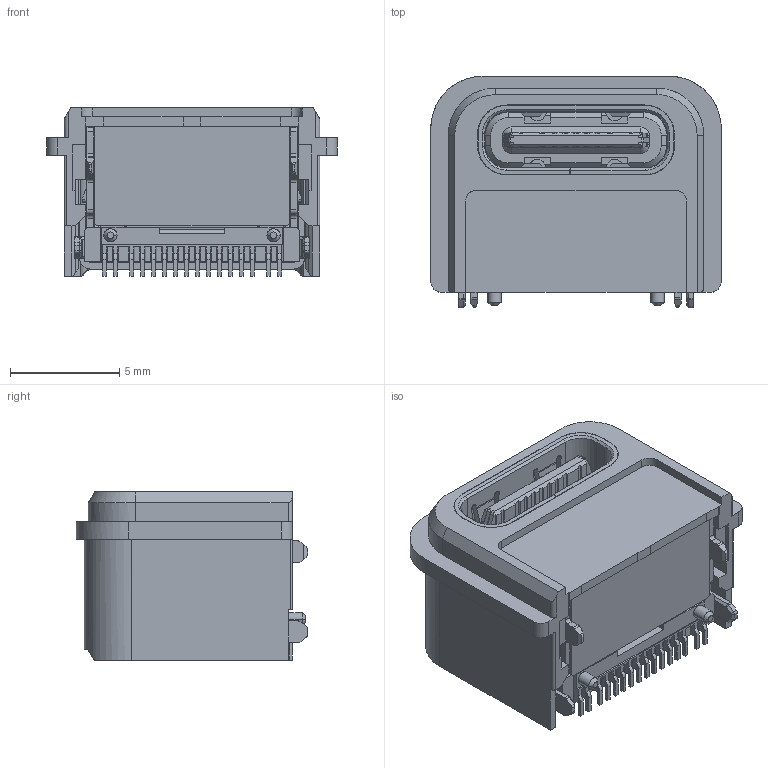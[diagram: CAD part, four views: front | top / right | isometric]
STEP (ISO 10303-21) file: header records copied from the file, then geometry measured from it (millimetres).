
FILE_DESCRIPTION (( 'STEP AP203' ), '1' );
FILE_NAME ('USB-CF-SMT-013-HB-3D-20201125.STEP', '2020-11-25T10:35:10', ( '' ), ( '' ), 'SwSTEP 2.0', 'SolidWorks 2013', '' );
FILE_SCHEMA (( 'CONFIG_CONTROL_DESIGN' ));
Length unit declared in the file: millimetre
Products named in the file (1): USB-CF-SMT-013-HB-3D-20201125
Bounding box: 13.27 x 10.58 x 7.7 mm (x, y, z)
Volume: 562.1 mm3; surface area: 1860.8 mm2
Topology: 1 solids, 7 shells, 1502 faces, 4256 edges, 2729 vertices
Faces by surface type: plane 1007, cylinder 391, cone 80, bspline 24
Entity records: 51587 total; most frequent: CARTESIAN_POINT 15555, ORIENTED_EDGE 8510, DIRECTION 5810, EDGE_CURVE 4255, VECTOR 2742, LINE 2742, VERTEX_POINT 2729, EDGE_LOOP 1550
